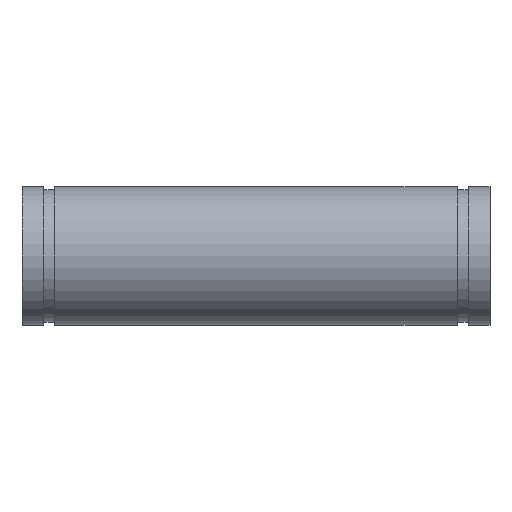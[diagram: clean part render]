
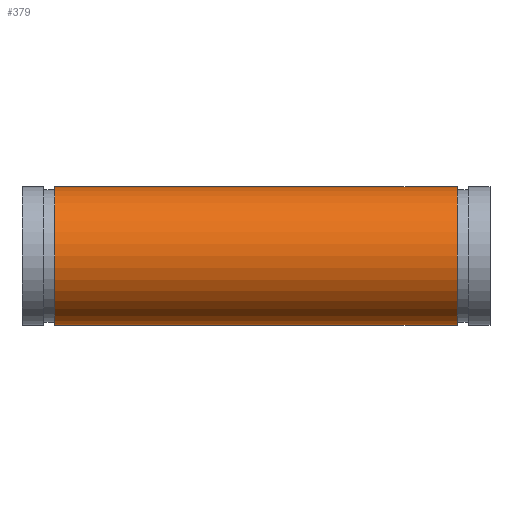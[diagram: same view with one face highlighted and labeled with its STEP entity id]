
A CAD part, left-side view. The second image highlights one B-rep face of the part: STEP entity #379.
In plain terms, the highlighted cylindrical face has radius 50.8 mm (diameter 101.6 mm), a full revolution.
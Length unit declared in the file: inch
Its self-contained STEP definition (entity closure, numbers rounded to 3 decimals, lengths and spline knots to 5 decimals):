
#45=ELLIPSE('',#439,5.22625,2.);
#46=ELLIPSE('',#440,5.22625,2.);
#47=ELLIPSE('',#441,2.16478,2.);
#57=LINE('',#676,#68);
#68=VECTOR('',#544,2.);
#79=CYLINDRICAL_SURFACE('',#438,2.);
#90=FACE_BOUND('',#131,.T.);
#105=FACE_OUTER_BOUND('',#130,.T.);
#130=EDGE_LOOP('',(#292,#293,#294,#295));
#131=EDGE_LOOP('',(#296,#297,#298));
#154=CIRCLE('',#426,2.);
#155=CIRCLE('',#428,2.);
#181=VERTEX_POINT('',#653);
#182=VERTEX_POINT('',#656);
#189=VERTEX_POINT('',#677);
#190=VERTEX_POINT('',#678);
#191=VERTEX_POINT('',#680);
#218=EDGE_CURVE('',#181,#181,#154,.T.);
#219=EDGE_CURVE('',#182,#182,#155,.T.);
#228=EDGE_CURVE('',#181,#182,#57,.T.);
#229=EDGE_CURVE('',#189,#190,#45,.T.);
#230=EDGE_CURVE('',#190,#191,#46,.T.);
#231=EDGE_CURVE('',#191,#189,#47,.T.);
#292=ORIENTED_EDGE('',*,*,#218,.T.);
#293=ORIENTED_EDGE('',*,*,#228,.T.);
#294=ORIENTED_EDGE('',*,*,#219,.T.);
#295=ORIENTED_EDGE('',*,*,#228,.F.);
#296=ORIENTED_EDGE('',*,*,#229,.T.);
#297=ORIENTED_EDGE('',*,*,#230,.T.);
#298=ORIENTED_EDGE('',*,*,#231,.T.);
#379=ADVANCED_FACE('',(#105,#90),#79,.T.);
#426=AXIS2_PLACEMENT_3D('',#654,#516,#517);
#428=AXIS2_PLACEMENT_3D('',#657,#520,#521);
#438=AXIS2_PLACEMENT_3D('',#675,#542,#543);
#439=AXIS2_PLACEMENT_3D('',#679,#545,#546);
#440=AXIS2_PLACEMENT_3D('',#681,#547,#548);
#441=AXIS2_PLACEMENT_3D('',#682,#549,#550);
#516=DIRECTION('center_axis',(0.,1.,0.));
#517=DIRECTION('ref_axis',(1.,0.,0.));
#520=DIRECTION('center_axis',(0.,-1.,0.));
#521=DIRECTION('ref_axis',(1.,0.,0.));
#542=DIRECTION('center_axis',(0.,-1.,0.));
#543=DIRECTION('ref_axis',(1.,0.,0.));
#544=DIRECTION('',(0.,1.,0.));
#545=DIRECTION('center_axis',(-0.924,0.383,0.));
#546=DIRECTION('ref_axis',(-0.383,-0.924,0.));
#547=DIRECTION('center_axis',(-0.924,0.383,0.));
#548=DIRECTION('ref_axis',(-0.383,-0.924,0.));
#549=DIRECTION('center_axis',(-0.383,-0.924,0.));
#550=DIRECTION('ref_axis',(0.924,-0.383,0.));
#653=CARTESIAN_POINT('',(-2.,-2.562,0.));
#654=CARTESIAN_POINT('Origin',(0.,-2.562,0.));
#656=CARTESIAN_POINT('',(-2.,9.062,0.));
#657=CARTESIAN_POINT('Origin',(0.,9.062,0.));
#675=CARTESIAN_POINT('Origin',(0.,10.,0.));
#676=CARTESIAN_POINT('',(-2.,10.,0.));
#677=CARTESIAN_POINT('',(0.,0.,2.));
#678=CARTESIAN_POINT('',(2.,4.82843,0.));
#679=CARTESIAN_POINT('Origin',(0.,0.,0.));
#680=CARTESIAN_POINT('',(0.,0.,-2.));
#681=CARTESIAN_POINT('Origin',(0.,0.,0.));
#682=CARTESIAN_POINT('Origin',(0.,0.,0.));
